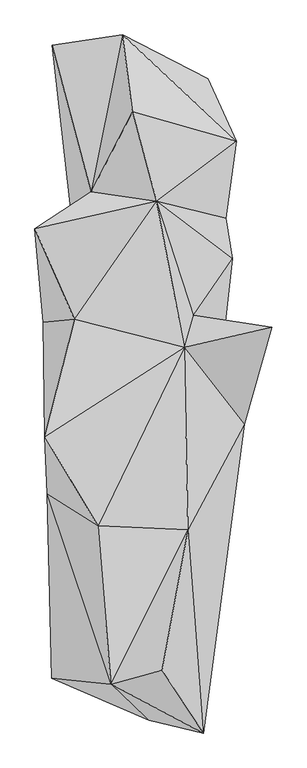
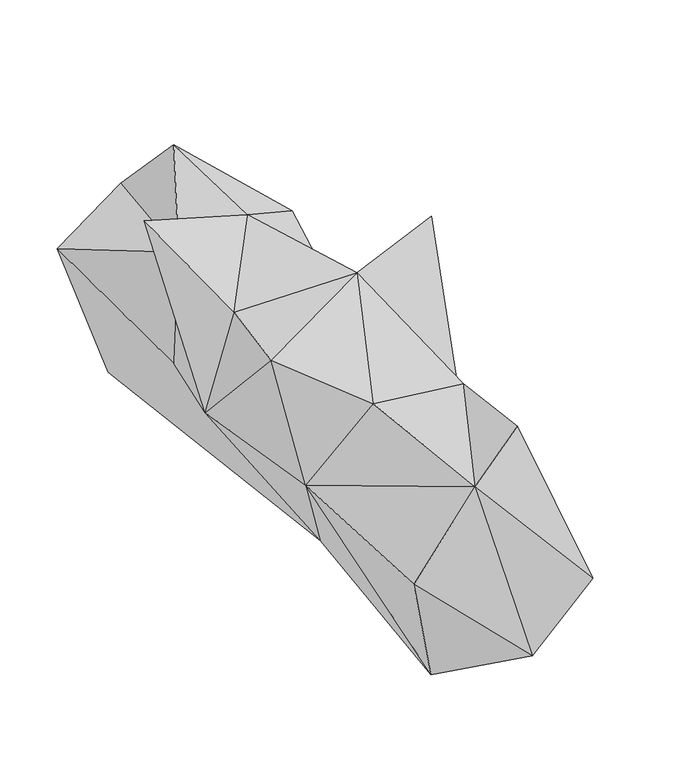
"""IFC4 building model written with IfcOpenShell, lengths in millimetres: geographic element geometry, Enscape AssetDefinition - Potted Plant 250 Snake Plant : Enscape AssetDefinition - Potted Plant 250 Snake Plant 6."""

from ifc_helpers import new_model, si_unit, origin, place, context, project, spatial, triangles, source, transform, mapped, element, save


def geographic_element_fcc98acb(model_context):
    return source(origin(), model_context, "Body", "Tessellation", [
        triangles([(-17.0523658, 617.1602943, 498.8347406), (-38.7466084, 787.142506, 311.5972232), (149.6848133, 690.0125336, 64.1772827), (31.3046844, 604.5049985, 0.0), (-108.2455367, 440.6543166, 381.2007872), (189.5679893, 382.183576, 261.8851958), (212.8874961, 552.7991429, 299.6198838), (155.9938032, 410.0038982, 91.5344201), (81.147754, -79.1949026, 0.0), (36.4324964, 419.6115967, 432.8701987), (117.8787241, 169.0285453, 316.6021866), (203.8612666, 292.8640643, 259.081497), (168.5635483, -25.2759758, 161.9979425), (290.9940658, 142.0900098, 508.6635375), (230.1864766, -71.6173945, 234.0694336), (105.9778426, -304.6521529, 443.1567801), (139.4455673, -753.286215, 239.0243092), (155.03376, -562.4223564, 0.0), (19.2208789, -725.237491, 79.3550672), (48.7346979, -614.7897268, 550.0000042), (-93.2142685, -296.0782032, 460.7697312), (-195.4056235, -632.3052275, 269.0886987), (-64.302861, -645.2008066, 464.4461057), (-87.8252806, -80.2341197, 0.0), (-3.7191433, -549.417627, 0.0), (-149.3280945, -619.7674026, 29.3927871), (-204.915054, -225.4736283, 262.3292457), (97.5076111, 98.0672608, 467.3935638), (-210.3449914, -99.7516602, 486.7909627), (-144.9665148, 159.2907131, 421.5444729), (-214.0604623, 153.6614964, 209.1119272), (-151.2218016, 384.5477486, 164.8880822), (-232.5852037, 359.2744729, 548.7332574), (-159.7903011, 626.1546581, 0.0), (-194.5401967, 764.7684357, 223.2222941)], [[4, 9, 24], [34, 4, 24], [4, 34, 35], [35, 34, 32], [24, 32, 34], [5, 35, 32], [5, 33, 10], [28, 10, 30], [33, 30, 10], [31, 33, 5], [24, 31, 32], [31, 5, 32], [30, 33, 31], [29, 30, 31], [28, 30, 29], [28, 29, 21], [27, 21, 29], [27, 29, 31], [27, 31, 24], [27, 26, 22], [27, 24, 26], [24, 25, 26], [24, 9, 25], [22, 26, 19], [26, 25, 19], [21, 27, 23], [22, 19, 23], [27, 22, 23], [16, 23, 20], [28, 21, 16], [16, 21, 23], [17, 16, 20], [17, 23, 19], [20, 23, 17], [18, 25, 9], [19, 25, 18], [17, 19, 18], [18, 15, 17], [15, 28, 16], [15, 16, 17], [28, 15, 14], [9, 15, 18], [15, 9, 13], [15, 13, 11], [14, 15, 11], [10, 28, 11], [11, 28, 14], [12, 11, 13], [12, 13, 9], [12, 10, 11], [6, 10, 12], [4, 8, 9], [6, 12, 8], [8, 12, 9], [8, 4, 3], [7, 10, 6], [7, 6, 8], [8, 3, 7], [1, 10, 7], [5, 10, 1], [2, 7, 3], [4, 35, 2], [5, 2, 35], [5, 1, 2], [2, 3, 4], [2, 1, 7]]),
    ])


if __name__ == "__main__":
    model = new_model("IFC4")
    model_context = context("Model", 3, world=origin())
    ifc_project = project(units=[si_unit("LENGTHUNIT", "METRE", prefix="MILLI")], contexts=[model_context])
    site = spatial("IfcSite", under=ifc_project)
    building = spatial("IfcBuilding", under=site)
    placement = place(None, origin())
    geographic_element_shape = geographic_element_fcc98acb(model_context)
    element("IfcGeographicElement", 1, ObjectType="Enscape AssetDefinition - Potted Plant 250 Snake Plant : Enscape AssetDefinition - Potted Plant 250 Snake Plant 6", at=placement, inside=building, context=model_context, shape_type="MappedRepresentation", body=[
        mapped(geographic_element_shape, transform((0.0, 0.0, 0.0), x_axis=(1.0, 0.0, 0.0), y_axis=(0.0, 1.0, 0.0), z_axis=(0.0, 0.0, 1.0))),
    ])
    save(model, "model.ifc")
